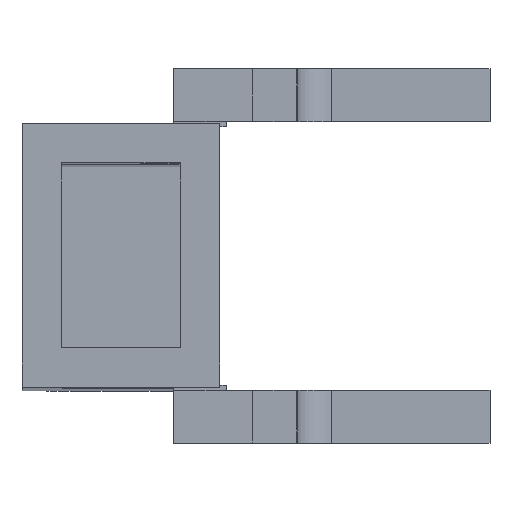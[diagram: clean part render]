
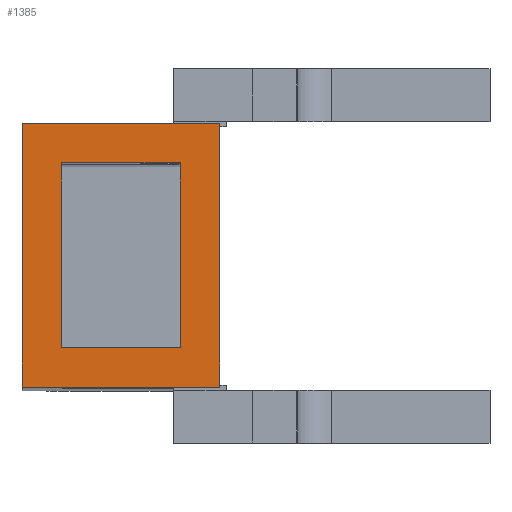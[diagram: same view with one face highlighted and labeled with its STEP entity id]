
A CAD part, top view. The second image highlights one B-rep face of the part: STEP entity #1385.
In plain terms, the highlighted planar face has unit normal (0, 0, 1).
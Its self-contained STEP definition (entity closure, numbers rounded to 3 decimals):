
#73 = PLANE('',#74);
#74 = AXIS2_PLACEMENT_3D('',#75,#76,#77);
#75 = CARTESIAN_POINT('',(0.,-10.,0.));
#76 = DIRECTION('',(0.,-1.,0.));
#77 = DIRECTION('',(1.,0.,0.));
#128 = PLANE('',#129);
#129 = AXIS2_PLACEMENT_3D('',#130,#131,#132);
#130 = CARTESIAN_POINT('',(0.,10.,0.));
#131 = DIRECTION('',(0.,-1.,0.));
#132 = DIRECTION('',(1.,0.,0.));
#505 = VERTEX_POINT('',#506);
#506 = CARTESIAN_POINT('',(7.5,10.,169.5));
#520 = PLANE('',#521);
#521 = AXIS2_PLACEMENT_3D('',#522,#523,#524);
#522 = CARTESIAN_POINT('',(7.5,-10.,11.));
#523 = DIRECTION('',(1.,0.,-0.));
#524 = DIRECTION('',(0.,0.,1.));
#532 = EDGE_CURVE('',#533,#505,#535,.T.);
#533 = VERTEX_POINT('',#534);
#534 = CARTESIAN_POINT('',(-7.5,10.,169.5));
#535 = SURFACE_CURVE('',#536,(#540,#547),.PCURVE_S1.);
#536 = LINE('',#537,#538);
#537 = CARTESIAN_POINT('',(-7.5,10.,169.5));
#538 = VECTOR('',#539,1.);
#539 = DIRECTION('',(1.,0.,-0.));
#540 = PCURVE('',#128,#541);
#541 = DEFINITIONAL_REPRESENTATION('',(#542),#546);
#542 = LINE('',#543,#544);
#543 = CARTESIAN_POINT('',(-7.5,169.5));
#544 = VECTOR('',#545,1.);
#545 = DIRECTION('',(1.,0.));
#546 = ( GEOMETRIC_REPRESENTATION_CONTEXT(2) 
PARAMETRIC_REPRESENTATION_CONTEXT() REPRESENTATION_CONTEXT('2D SPACE',''
  ) );
#547 = PCURVE('',#548,#553);
#548 = PLANE('',#549);
#549 = AXIS2_PLACEMENT_3D('',#550,#551,#552);
#550 = CARTESIAN_POINT('',(-7.5,-10.,169.5));
#551 = DIRECTION('',(0.,0.,1.));
#552 = DIRECTION('',(1.,0.,-0.));
#553 = DEFINITIONAL_REPRESENTATION('',(#554),#558);
#554 = LINE('',#555,#556);
#555 = CARTESIAN_POINT('',(0.,20.));
#556 = VECTOR('',#557,1.);
#557 = DIRECTION('',(1.,0.));
#558 = ( GEOMETRIC_REPRESENTATION_CONTEXT(2) 
PARAMETRIC_REPRESENTATION_CONTEXT() REPRESENTATION_CONTEXT('2D SPACE',''
  ) );
#574 = PLANE('',#575);
#575 = AXIS2_PLACEMENT_3D('',#576,#577,#578);
#576 = CARTESIAN_POINT('',(-7.5,-10.,11.));
#577 = DIRECTION('',(1.,0.,-0.));
#578 = DIRECTION('',(0.,0.,1.));
#1050 = VERTEX_POINT('',#1051);
#1051 = CARTESIAN_POINT('',(7.5,-10.,169.5));
#1072 = EDGE_CURVE('',#1073,#1050,#1075,.T.);
#1073 = VERTEX_POINT('',#1074);
#1074 = CARTESIAN_POINT('',(-7.5,-10.,169.5));
#1075 = SURFACE_CURVE('',#1076,(#1080,#1087),.PCURVE_S1.);
#1076 = LINE('',#1077,#1078);
#1077 = CARTESIAN_POINT('',(-7.5,-10.,169.5));
#1078 = VECTOR('',#1079,1.);
#1079 = DIRECTION('',(1.,0.,-0.));
#1080 = PCURVE('',#73,#1081);
#1081 = DEFINITIONAL_REPRESENTATION('',(#1082),#1086);
#1082 = LINE('',#1083,#1084);
#1083 = CARTESIAN_POINT('',(-7.5,169.5));
#1084 = VECTOR('',#1085,1.);
#1085 = DIRECTION('',(1.,0.));
#1086 = ( GEOMETRIC_REPRESENTATION_CONTEXT(2) 
PARAMETRIC_REPRESENTATION_CONTEXT() REPRESENTATION_CONTEXT('2D SPACE',''
  ) );
#1087 = PCURVE('',#548,#1088);
#1088 = DEFINITIONAL_REPRESENTATION('',(#1089),#1093);
#1089 = LINE('',#1090,#1091);
#1090 = CARTESIAN_POINT('',(0.,0.));
#1091 = VECTOR('',#1092,1.);
#1092 = DIRECTION('',(1.,0.));
#1093 = ( GEOMETRIC_REPRESENTATION_CONTEXT(2) 
PARAMETRIC_REPRESENTATION_CONTEXT() REPRESENTATION_CONTEXT('2D SPACE',''
  ) );
#1334 = EDGE_CURVE('',#1073,#533,#1335,.T.);
#1335 = SURFACE_CURVE('',#1336,(#1340,#1347),.PCURVE_S1.);
#1336 = LINE('',#1337,#1338);
#1337 = CARTESIAN_POINT('',(-7.5,-10.,169.5));
#1338 = VECTOR('',#1339,1.);
#1339 = DIRECTION('',(-0.,1.,0.));
#1340 = PCURVE('',#574,#1341);
#1341 = DEFINITIONAL_REPRESENTATION('',(#1342),#1346);
#1342 = LINE('',#1343,#1344);
#1343 = CARTESIAN_POINT('',(158.5,0.));
#1344 = VECTOR('',#1345,1.);
#1345 = DIRECTION('',(0.,-1.));
#1346 = ( GEOMETRIC_REPRESENTATION_CONTEXT(2) 
PARAMETRIC_REPRESENTATION_CONTEXT() REPRESENTATION_CONTEXT('2D SPACE',''
  ) );
#1347 = PCURVE('',#548,#1348);
#1348 = DEFINITIONAL_REPRESENTATION('',(#1349),#1353);
#1349 = LINE('',#1350,#1351);
#1350 = CARTESIAN_POINT('',(0.,0.));
#1351 = VECTOR('',#1352,1.);
#1352 = DIRECTION('',(0.,1.));
#1353 = ( GEOMETRIC_REPRESENTATION_CONTEXT(2) 
PARAMETRIC_REPRESENTATION_CONTEXT() REPRESENTATION_CONTEXT('2D SPACE',''
  ) );
#1385 = ADVANCED_FACE('',(#1386,#1412),#548,.T.);
#1386 = FACE_BOUND('',#1387,.T.);
#1387 = EDGE_LOOP('',(#1388,#1389,#1390,#1411));
#1388 = ORIENTED_EDGE('',*,*,#1334,.F.);
#1389 = ORIENTED_EDGE('',*,*,#1072,.T.);
#1390 = ORIENTED_EDGE('',*,*,#1391,.T.);
#1391 = EDGE_CURVE('',#1050,#505,#1392,.T.);
#1392 = SURFACE_CURVE('',#1393,(#1397,#1404),.PCURVE_S1.);
#1393 = LINE('',#1394,#1395);
#1394 = CARTESIAN_POINT('',(7.5,-10.,169.5));
#1395 = VECTOR('',#1396,1.);
#1396 = DIRECTION('',(-0.,1.,0.));
#1397 = PCURVE('',#548,#1398);
#1398 = DEFINITIONAL_REPRESENTATION('',(#1399),#1403);
#1399 = LINE('',#1400,#1401);
#1400 = CARTESIAN_POINT('',(15.,0.));
#1401 = VECTOR('',#1402,1.);
#1402 = DIRECTION('',(0.,1.));
#1403 = ( GEOMETRIC_REPRESENTATION_CONTEXT(2) 
PARAMETRIC_REPRESENTATION_CONTEXT() REPRESENTATION_CONTEXT('2D SPACE',''
  ) );
#1404 = PCURVE('',#520,#1405);
#1405 = DEFINITIONAL_REPRESENTATION('',(#1406),#1410);
#1406 = LINE('',#1407,#1408);
#1407 = CARTESIAN_POINT('',(158.5,0.));
#1408 = VECTOR('',#1409,1.);
#1409 = DIRECTION('',(0.,-1.));
#1410 = ( GEOMETRIC_REPRESENTATION_CONTEXT(2) 
PARAMETRIC_REPRESENTATION_CONTEXT() REPRESENTATION_CONTEXT('2D SPACE',''
  ) );
#1411 = ORIENTED_EDGE('',*,*,#532,.F.);
#1412 = FACE_BOUND('',#1413,.T.);
#1413 = EDGE_LOOP('',(#1414,#1442,#1468,#1494));
#1414 = ORIENTED_EDGE('',*,*,#1415,.T.);
#1415 = EDGE_CURVE('',#1416,#1418,#1420,.T.);
#1416 = VERTEX_POINT('',#1417);
#1417 = CARTESIAN_POINT('',(4.5,-7.,169.5));
#1418 = VERTEX_POINT('',#1419);
#1419 = CARTESIAN_POINT('',(-4.5,-7.,169.5));
#1420 = SURFACE_CURVE('',#1421,(#1425,#1431),.PCURVE_S1.);
#1421 = LINE('',#1422,#1423);
#1422 = CARTESIAN_POINT('',(-6.,-7.,169.5));
#1423 = VECTOR('',#1424,1.);
#1424 = DIRECTION('',(-1.,-0.,0.));
#1425 = PCURVE('',#548,#1426);
#1426 = DEFINITIONAL_REPRESENTATION('',(#1427),#1430);
#1427 = B_SPLINE_CURVE_WITH_KNOTS('',1,(#1428,#1429),.UNSPECIFIED.,.F.,
  .F.,(2,2),(-10.5,-1.5),.PIECEWISE_BEZIER_KNOTS.);
#1428 = CARTESIAN_POINT('',(12.,3.));
#1429 = CARTESIAN_POINT('',(3.,3.));
#1430 = ( GEOMETRIC_REPRESENTATION_CONTEXT(2) 
PARAMETRIC_REPRESENTATION_CONTEXT() REPRESENTATION_CONTEXT('2D SPACE',''
  ) );
#1431 = PCURVE('',#1432,#1437);
#1432 = PLANE('',#1433);
#1433 = AXIS2_PLACEMENT_3D('',#1434,#1435,#1436);
#1434 = CARTESIAN_POINT('',(-4.5,-7.,10.99));
#1435 = DIRECTION('',(-0.,1.,0.));
#1436 = DIRECTION('',(0.,0.,1.));
#1437 = DEFINITIONAL_REPRESENTATION('',(#1438),#1441);
#1438 = B_SPLINE_CURVE_WITH_KNOTS('',1,(#1439,#1440),.UNSPECIFIED.,.F.,
  .F.,(2,2),(-10.5,-1.5),.PIECEWISE_BEZIER_KNOTS.);
#1439 = CARTESIAN_POINT('',(158.51,9.));
#1440 = CARTESIAN_POINT('',(158.51,0.));
#1441 = ( GEOMETRIC_REPRESENTATION_CONTEXT(2) 
PARAMETRIC_REPRESENTATION_CONTEXT() REPRESENTATION_CONTEXT('2D SPACE',''
  ) );
#1442 = ORIENTED_EDGE('',*,*,#1443,.T.);
#1443 = EDGE_CURVE('',#1418,#1444,#1446,.T.);
#1444 = VERTEX_POINT('',#1445);
#1445 = CARTESIAN_POINT('',(-4.5,7.,169.5));
#1446 = SURFACE_CURVE('',#1447,(#1451,#1457),.PCURVE_S1.);
#1447 = LINE('',#1448,#1449);
#1448 = CARTESIAN_POINT('',(-4.5,-8.5,169.5));
#1449 = VECTOR('',#1450,1.);
#1450 = DIRECTION('',(-0.,1.,0.));
#1451 = PCURVE('',#548,#1452);
#1452 = DEFINITIONAL_REPRESENTATION('',(#1453),#1456);
#1453 = B_SPLINE_CURVE_WITH_KNOTS('',1,(#1454,#1455),.UNSPECIFIED.,.F.,
  .F.,(2,2),(1.5,15.5),.PIECEWISE_BEZIER_KNOTS.);
#1454 = CARTESIAN_POINT('',(3.,3.));
#1455 = CARTESIAN_POINT('',(3.,17.));
#1456 = ( GEOMETRIC_REPRESENTATION_CONTEXT(2) 
PARAMETRIC_REPRESENTATION_CONTEXT() REPRESENTATION_CONTEXT('2D SPACE',''
  ) );
#1457 = PCURVE('',#1458,#1463);
#1458 = PLANE('',#1459);
#1459 = AXIS2_PLACEMENT_3D('',#1460,#1461,#1462);
#1460 = CARTESIAN_POINT('',(-4.5,-7.,10.99));
#1461 = DIRECTION('',(1.,0.,-0.));
#1462 = DIRECTION('',(0.,0.,1.));
#1463 = DEFINITIONAL_REPRESENTATION('',(#1464),#1467);
#1464 = B_SPLINE_CURVE_WITH_KNOTS('',1,(#1465,#1466),.UNSPECIFIED.,.F.,
  .F.,(2,2),(1.5,15.5),.PIECEWISE_BEZIER_KNOTS.);
#1465 = CARTESIAN_POINT('',(158.51,0.));
#1466 = CARTESIAN_POINT('',(158.51,-14.));
#1467 = ( GEOMETRIC_REPRESENTATION_CONTEXT(2) 
PARAMETRIC_REPRESENTATION_CONTEXT() REPRESENTATION_CONTEXT('2D SPACE',''
  ) );
#1468 = ORIENTED_EDGE('',*,*,#1469,.F.);
#1469 = EDGE_CURVE('',#1470,#1444,#1472,.T.);
#1470 = VERTEX_POINT('',#1471);
#1471 = CARTESIAN_POINT('',(4.5,7.,169.5));
#1472 = SURFACE_CURVE('',#1473,(#1477,#1483),.PCURVE_S1.);
#1473 = LINE('',#1474,#1475);
#1474 = CARTESIAN_POINT('',(-6.,7.,169.5));
#1475 = VECTOR('',#1476,1.);
#1476 = DIRECTION('',(-1.,-0.,0.));
#1477 = PCURVE('',#548,#1478);
#1478 = DEFINITIONAL_REPRESENTATION('',(#1479),#1482);
#1479 = B_SPLINE_CURVE_WITH_KNOTS('',1,(#1480,#1481),.UNSPECIFIED.,.F.,
  .F.,(2,2),(-10.5,-1.5),.PIECEWISE_BEZIER_KNOTS.);
#1480 = CARTESIAN_POINT('',(12.,17.));
#1481 = CARTESIAN_POINT('',(3.,17.));
#1482 = ( GEOMETRIC_REPRESENTATION_CONTEXT(2) 
PARAMETRIC_REPRESENTATION_CONTEXT() REPRESENTATION_CONTEXT('2D SPACE',''
  ) );
#1483 = PCURVE('',#1484,#1489);
#1484 = PLANE('',#1485);
#1485 = AXIS2_PLACEMENT_3D('',#1486,#1487,#1488);
#1486 = CARTESIAN_POINT('',(-4.5,7.,10.99));
#1487 = DIRECTION('',(-0.,1.,0.));
#1488 = DIRECTION('',(0.,0.,1.));
#1489 = DEFINITIONAL_REPRESENTATION('',(#1490),#1493);
#1490 = B_SPLINE_CURVE_WITH_KNOTS('',1,(#1491,#1492),.UNSPECIFIED.,.F.,
  .F.,(2,2),(-10.5,-1.5),.PIECEWISE_BEZIER_KNOTS.);
#1491 = CARTESIAN_POINT('',(158.51,9.));
#1492 = CARTESIAN_POINT('',(158.51,0.));
#1493 = ( GEOMETRIC_REPRESENTATION_CONTEXT(2) 
PARAMETRIC_REPRESENTATION_CONTEXT() REPRESENTATION_CONTEXT('2D SPACE',''
  ) );
#1494 = ORIENTED_EDGE('',*,*,#1495,.F.);
#1495 = EDGE_CURVE('',#1416,#1470,#1496,.T.);
#1496 = SURFACE_CURVE('',#1497,(#1501,#1507),.PCURVE_S1.);
#1497 = LINE('',#1498,#1499);
#1498 = CARTESIAN_POINT('',(4.5,-8.5,169.5));
#1499 = VECTOR('',#1500,1.);
#1500 = DIRECTION('',(-0.,1.,0.));
#1501 = PCURVE('',#548,#1502);
#1502 = DEFINITIONAL_REPRESENTATION('',(#1503),#1506);
#1503 = B_SPLINE_CURVE_WITH_KNOTS('',1,(#1504,#1505),.UNSPECIFIED.,.F.,
  .F.,(2,2),(1.5,15.5),.PIECEWISE_BEZIER_KNOTS.);
#1504 = CARTESIAN_POINT('',(12.,3.));
#1505 = CARTESIAN_POINT('',(12.,17.));
#1506 = ( GEOMETRIC_REPRESENTATION_CONTEXT(2) 
PARAMETRIC_REPRESENTATION_CONTEXT() REPRESENTATION_CONTEXT('2D SPACE',''
  ) );
#1507 = PCURVE('',#1508,#1513);
#1508 = PLANE('',#1509);
#1509 = AXIS2_PLACEMENT_3D('',#1510,#1511,#1512);
#1510 = CARTESIAN_POINT('',(4.5,-7.,10.99));
#1511 = DIRECTION('',(1.,0.,-0.));
#1512 = DIRECTION('',(0.,0.,1.));
#1513 = DEFINITIONAL_REPRESENTATION('',(#1514),#1517);
#1514 = B_SPLINE_CURVE_WITH_KNOTS('',1,(#1515,#1516),.UNSPECIFIED.,.F.,
  .F.,(2,2),(1.5,15.5),.PIECEWISE_BEZIER_KNOTS.);
#1515 = CARTESIAN_POINT('',(158.51,0.));
#1516 = CARTESIAN_POINT('',(158.51,-14.));
#1517 = ( GEOMETRIC_REPRESENTATION_CONTEXT(2) 
PARAMETRIC_REPRESENTATION_CONTEXT() REPRESENTATION_CONTEXT('2D SPACE',''
  ) );
